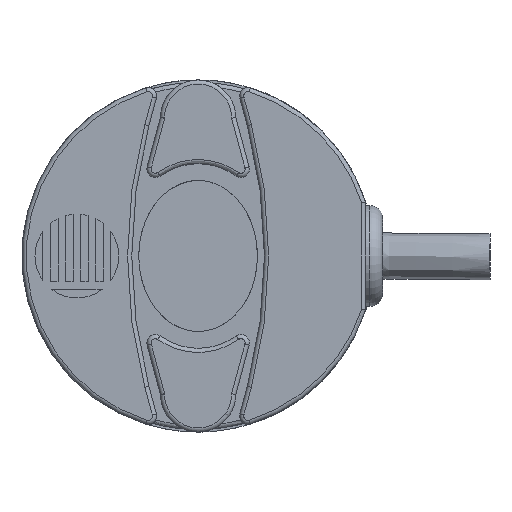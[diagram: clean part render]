
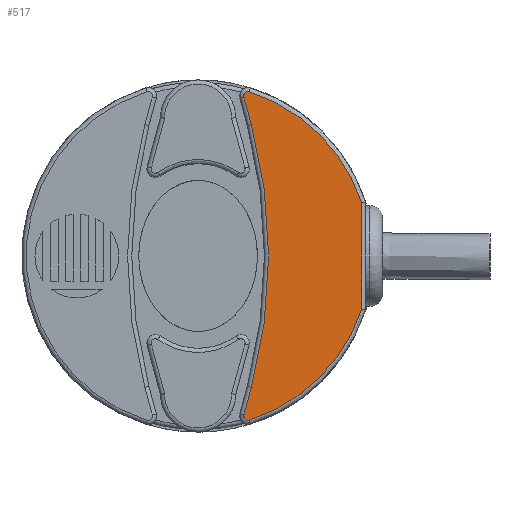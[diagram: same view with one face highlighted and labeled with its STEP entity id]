
A CAD part, left-side view. The second image highlights one B-rep face of the part: STEP entity #517.
In plain terms, the highlighted planar face has unit normal (-1, 0, 0).
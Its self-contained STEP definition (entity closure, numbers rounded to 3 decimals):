
#517 = ADVANCED_FACE( '', ( #1239 ), #1240, .T. );
#1239 = FACE_OUTER_BOUND( '', #2592, .T. );
#1240 = PLANE( '', #2593 );
#2592 = EDGE_LOOP( '', ( #5498, #5499, #5500, #5501, #5502, #5503, #5504, #5505 ) );
#2593 = AXIS2_PLACEMENT_3D( '', #5506, #5507, #5508 );
#5498 = ORIENTED_EDGE( '', *, *, #7540, .T. );
#5499 = ORIENTED_EDGE( '', *, *, #7541, .T. );
#5500 = ORIENTED_EDGE( '', *, *, #7306, .T. );
#5501 = ORIENTED_EDGE( '', *, *, #7542, .T. );
#5502 = ORIENTED_EDGE( '', *, *, #7437, .T. );
#5503 = ORIENTED_EDGE( '', *, *, #7498, .T. );
#5504 = ORIENTED_EDGE( '', *, *, #7543, .T. );
#5505 = ORIENTED_EDGE( '', *, *, #7302, .T. );
#5506 = CARTESIAN_POINT( '', ( -7.4, -5.946, -19.096 ) );
#5507 = DIRECTION( '', ( -1., 0., 0. ) );
#5508 = DIRECTION( '', ( 0., 1., 0. ) );
#7302 = EDGE_CURVE( '', #8298, #8296, #8299, .T. );
#7306 = EDGE_CURVE( '', #8305, #8303, #8306, .T. );
#7437 = EDGE_CURVE( '', #8524, #8522, #8525, .T. );
#7498 = EDGE_CURVE( '', #8522, #8617, #8619, .T. );
#7540 = EDGE_CURVE( '', #8296, #8684, #8685, .T. );
#7541 = EDGE_CURVE( '', #8684, #8305, #8686, .T. );
#7542 = EDGE_CURVE( '', #8303, #8524, #8687, .T. );
#7543 = EDGE_CURVE( '', #8617, #8298, #8688, .T. );
#8296 = VERTEX_POINT( '', #9812 );
#8298 = VERTEX_POINT( '', #9814 );
#8299 = CIRCLE( '', #9815, 0.5 );
#8303 = VERTEX_POINT( '', #9819 );
#8305 = VERTEX_POINT( '', #9821 );
#8306 = CIRCLE( '', #9822, 20.5 );
#8522 = VERTEX_POINT( '', #10580 );
#8524 = VERTEX_POINT( '', #10582 );
#8525 = LINE( '', #10583, #10584 );
#8617 = VERTEX_POINT( '', #10941 );
#8619 = CIRCLE( '', #10943, 60.5 );
#8684 = VERTEX_POINT( '', #11075 );
#8685 = CIRCLE( '', #11076, 20.5 );
#8686 = LINE( '', #11077, #11078 );
#8687 = CIRCLE( '', #11079, 0.5 );
#8688 = LINE( '', #11080, #11081 );
#9812 = CARTESIAN_POINT( '', ( -7.4, -6.094, -19.573 ) );
#9814 = CARTESIAN_POINT( '', ( -7.4, -5.463, -18.966 ) );
#9815 = AXIS2_PLACEMENT_3D( '', #13805, #13806, #13807 );
#9819 = CARTESIAN_POINT( '', ( -7.4, -6.094, 19.573 ) );
#9821 = CARTESIAN_POINT( '', ( -7.4, -19.5, 6.325 ) );
#9822 = AXIS2_PLACEMENT_3D( '', #13814, #13815, #13816 );
#10580 = CARTESIAN_POINT( '', ( -7.4, -6.349, 15.659 ) );
#10582 = CARTESIAN_POINT( '', ( -7.4, -5.463, 18.966 ) );
#10583 = CARTESIAN_POINT( '', ( -7.4, -6.349, 15.659 ) );
#10584 = VECTOR( '', #13994, 1000. );
#10941 = CARTESIAN_POINT( '', ( -7.4, -6.349, -15.659 ) );
#10943 = AXIS2_PLACEMENT_3D( '', #14084, #14085, #14086 );
#11075 = CARTESIAN_POINT( '', ( -7.4, -19.5, -6.325 ) );
#11076 = AXIS2_PLACEMENT_3D( '', #14133, #14134, #14135 );
#11077 = CARTESIAN_POINT( '', ( -7.4, -19.5, -19.096 ) );
#11078 = VECTOR( '', #14136, 1000. );
#11079 = AXIS2_PLACEMENT_3D( '', #14137, #14138, #14139 );
#11080 = CARTESIAN_POINT( '', ( -7.4, -5.463, -18.966 ) );
#11081 = VECTOR( '', #14140, 1000. );
#13805 = CARTESIAN_POINT( '', ( -7.4, -5.946, -19.096 ) );
#13806 = DIRECTION( '', ( -1., 0., 0. ) );
#13807 = DIRECTION( '', ( 0., -1., 0. ) );
#13814 = CARTESIAN_POINT( '', ( -7.4, 0., 0. ) );
#13815 = DIRECTION( '', ( -1., 0., 0. ) );
#13816 = DIRECTION( '', ( 0., -1., 0. ) );
#13994 = DIRECTION( '', ( 0., -0.259, -0.966 ) );
#14084 = CARTESIAN_POINT( '', ( -7.4, 52.09, 0. ) );
#14085 = DIRECTION( '', ( 1., 0., 0. ) );
#14086 = DIRECTION( '', ( 0., -1., 0. ) );
#14133 = CARTESIAN_POINT( '', ( -7.4, 0., 0. ) );
#14134 = DIRECTION( '', ( -1., 0., 0. ) );
#14135 = DIRECTION( '', ( 0., -1., 0. ) );
#14136 = DIRECTION( '', ( 0., 0., 1. ) );
#14137 = CARTESIAN_POINT( '', ( -7.4, -5.946, 19.096 ) );
#14138 = DIRECTION( '', ( -1., 0., 0. ) );
#14139 = DIRECTION( '', ( 0., -1., 0. ) );
#14140 = DIRECTION( '', ( 0., 0.259, -0.966 ) );
